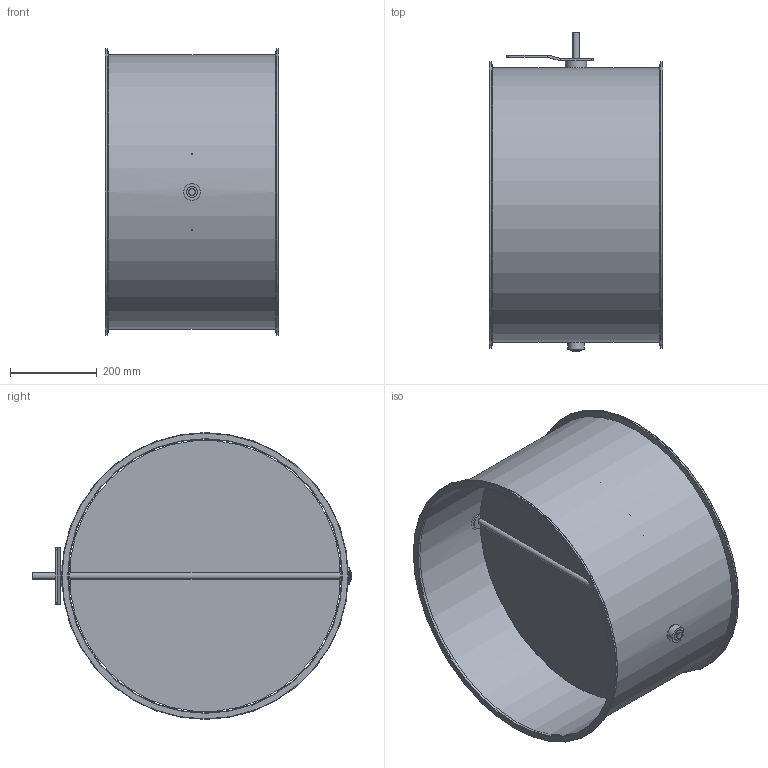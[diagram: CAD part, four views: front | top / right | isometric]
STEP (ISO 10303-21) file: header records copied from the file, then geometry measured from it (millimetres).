
FILE_DESCRIPTION(/* description */ (''),/* implementation_level */ '2;1');
FILE_NAME(/* name */ 'EA113-80B__630_L400_Belimo_Typ_GM.stp',/* time_stamp */ '2017-12-07T10:56:46+01:00',/* author */ (''),/* organization */ (''),/* preprocessor_version */ 'ST-DEVELOPER v11',/* originating_system */ 'SIEMENS UGS NX 6.0',/* authorisation */ '');
FILE_SCHEMA (('CONFIG_CONTROL_DESIGN'));
Length unit declared in the file: millimetre
Products named in the file (1): gars5544kx9l
Bounding box: 400 x 734 x 660 mm (x, y, z)
Volume: 1861681.2 mm3; surface area: 2415430.8 mm2
Topology: 8 solids, 8 shells, 79 faces, 167 edges, 106 vertices
Faces by surface type: plane 36, cylinder 35, torus 6, cone 2
Full cylindrical faces by diameter (mm): 6.1 x7, 15 x3, 25 x3, 25.85 x2, 26 x2, 38 x3, 49 x1, 630 x1, 632 x1, 660 x2
Entity records: 2062 total; most frequent: CARTESIAN_POINT 368, DIRECTION 352, ORIENTED_EDGE 248, AXIS2_PLACEMENT_3D 152, EDGE_LOOP 144, EDGE_CURVE 124, FACE_BOUND 114, VERTEX_POINT 96
